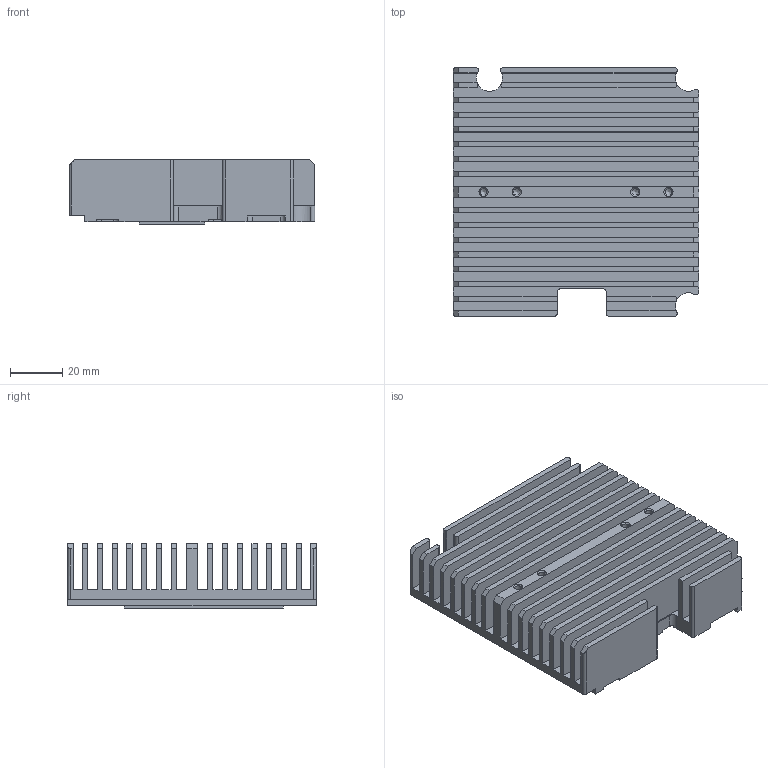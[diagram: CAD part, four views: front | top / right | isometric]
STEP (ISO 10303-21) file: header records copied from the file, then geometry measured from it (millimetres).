
FILE_DESCRIPTION(/* description */ (''),/* implementation_level */ '2;1');
FILE_NAME(/* name */ 'HS00030 Heatsink for COMex V3K-CE7 rev 1.1.step',/* time_stamp */ '2024-03-08T16:16:47+02:00',/* author */ (''),/* organization */ (''),/* preprocessor_version */ 'ST-DEVELOPER v20',/* originating_system */ 'Autodesk Translation Framework v12.20.1.177',/* authorisation */ '');
FILE_SCHEMA (('AUTOMOTIVE_DESIGN { 1 0 10303 214 3 1 1 }'));
Length unit declared in the file: millimetre
Products named in the file (1): HS00030 Heatsink for COMex V3K-CE7
Bounding box: 93.85 x 95 x 24.7 mm (x, y, z)
Volume: 105083.9 mm3; surface area: 74921 mm2
Topology: 1 solids, 1 shells, 221 faces, 629 edges, 414 vertices
Faces by surface type: plane 156, cylinder 49, cone 16
Full cylindrical faces by diameter (mm): 2.075 x4, 2.529 x4
Entity records: 7129 total; most frequent: CARTESIAN_POINT 1257, ORIENTED_EDGE 1242, DIRECTION 1186, EDGE_CURVE 621, LINE 500, VECTOR 500, VERTEX_POINT 414, AXIS2_PLACEMENT_3D 343
